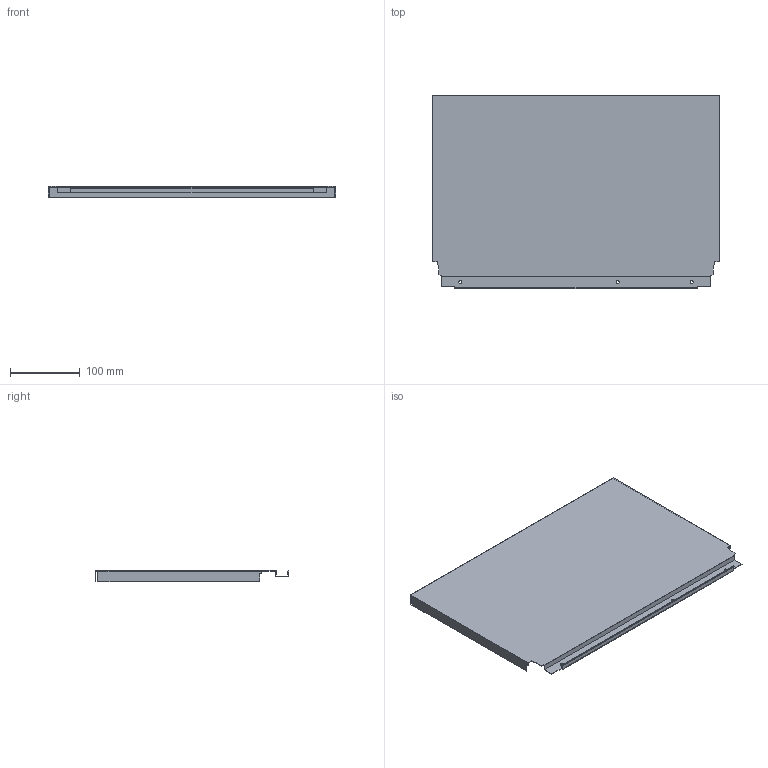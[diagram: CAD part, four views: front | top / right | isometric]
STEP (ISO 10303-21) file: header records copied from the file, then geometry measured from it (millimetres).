
FILE_DESCRIPTION (( 'STEP AP214' ), '1' );
FILE_NAME ('_DWD_XP Stahlrückwand_H278_KAB500_S18.step', '2010-07-08T13:03:56', ( 'grass' ), ( '' ), 'SwSTEP 2.0', 'SolidWorks 2010', '' );
FILE_SCHEMA (( 'AUTOMOTIVE_DESIGN' ));
Length unit declared in the file: millimetre
Products named in the file (1): _DWD_XP Stahlrückwand_H278_KAB500_S18
Bounding box: 413 x 278.57 x 16 mm (x, y, z)
Volume: 116986.3 mm3; surface area: 267198.4 mm2
Topology: 1 solids, 1 shells, 46 faces, 132 edges, 88 vertices
Faces by surface type: plane 40, cylinder 6
Entity records: 1534 total; most frequent: CARTESIAN_POINT 267, ORIENTED_EDGE 264, DIRECTION 238, EDGE_CURVE 132, VECTOR 120, LINE 120, VERTEX_POINT 88, AXIS2_PLACEMENT_3D 59
